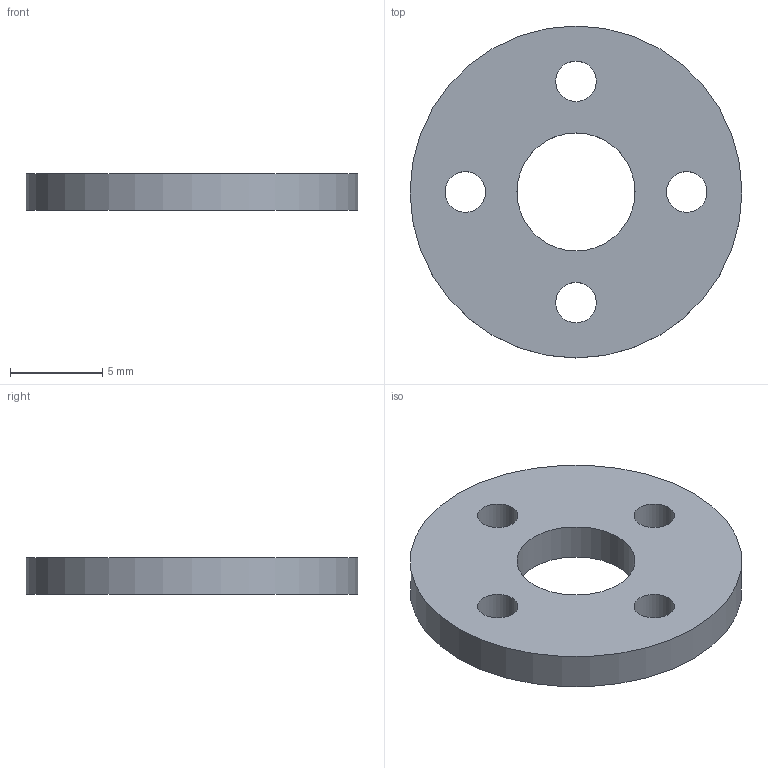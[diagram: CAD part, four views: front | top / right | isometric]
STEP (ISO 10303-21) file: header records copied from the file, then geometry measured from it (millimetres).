
FILE_DESCRIPTION(('Open CASCADE Model'),'2;1');
FILE_NAME('Open CASCADE Shape Model','2026-09-24T19:52:59',('Author'),( 'Open CASCADE'),'Open CASCADE STEP processor 7.8','Open CASCADE 7.8' ,'Unknown');
FILE_SCHEMA(('AUTOMOTIVE_DESIGN { 1 0 10303 214 1 1 1 1 }'));
Length unit declared in the file: millimetre
Products named in the file (1): Open CASCADE STEP translator 7.8 75
Bounding box: 18 x 18 x 2 mm (x, y, z)
Volume: 414.2 mm3; surface area: 622.8 mm2
Topology: 1 solids, 1 shells, 8 faces, 18 edges, 12 vertices
Faces by surface type: cylinder 6, plane 2
Full cylindrical faces by diameter (mm): 2.2 x4, 6.4 x1, 18 x1
Entity records: 498 total; most frequent: DIRECTION 84, CARTESIAN_POINT 75, ORIENTED_EDGE 36, PCURVE 36, DEFINITIONAL_REPRESENTATION 36, LINE 30, VECTOR 30, CIRCLE 24
